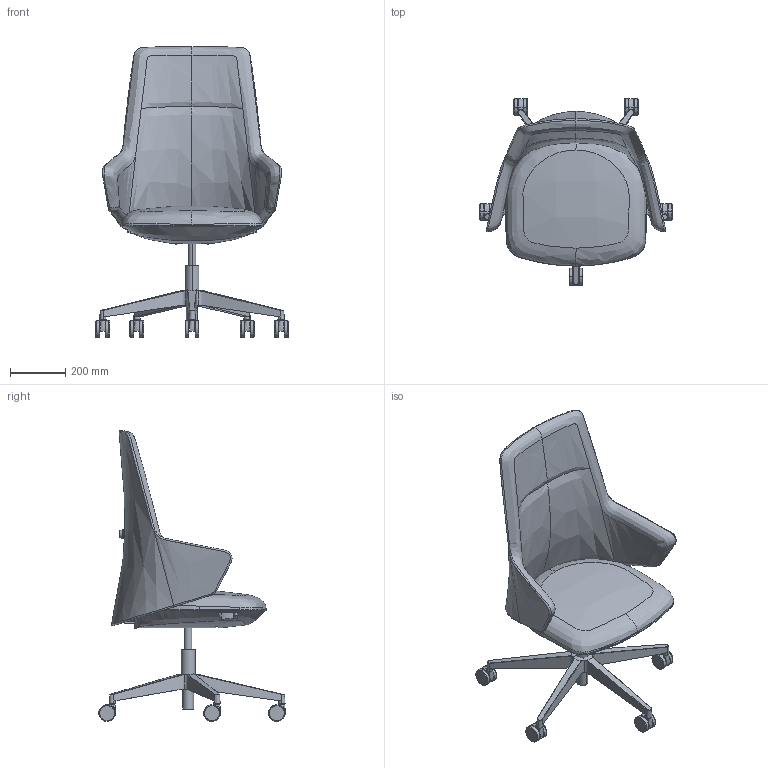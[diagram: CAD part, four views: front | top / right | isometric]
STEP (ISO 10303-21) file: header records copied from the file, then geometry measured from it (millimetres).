
FILE_DESCRIPTION(/* description */ (''),/* implementation_level */ '2;1');
FILE_NAME(/* name */ 'MELODY DESIGN 786-FR',/* time_stamp */ '2022-10-25T23:09:36+02:00',/* author */ (''),/* organization */ (''),/* preprocessor_version */ 'ST-DEVELOPER v16.5',/* originating_system */ 'Rhino 7.23',/* authorisation */ '');
FILE_SCHEMA (('CONFIG_CONTROL_DESIGN'));
Length unit declared in the file: millimetre
Products named in the file (1): Document
Bounding box: 694.82 x 673.73 x 1051.65 mm (x, y, z)
Volume: 36437024.1 mm3; surface area: 2193923 mm2
Topology: 6 solids, 29 shells, 283 faces, 687 edges, 422 vertices
Faces by surface type: bspline 147, plane 95, cylinder 41
Entity records: 22467 total; most frequent: CARTESIAN_POINT 18258, ORIENTED_EDGE 1249, EDGE_CURVE 679, VERTEX_POINT 416, B_SPLINE_CURVE_WITH_KNOTS 365, EDGE_LOOP 285, ADVANCED_FACE 283, FACE_OUTER_BOUND 283
